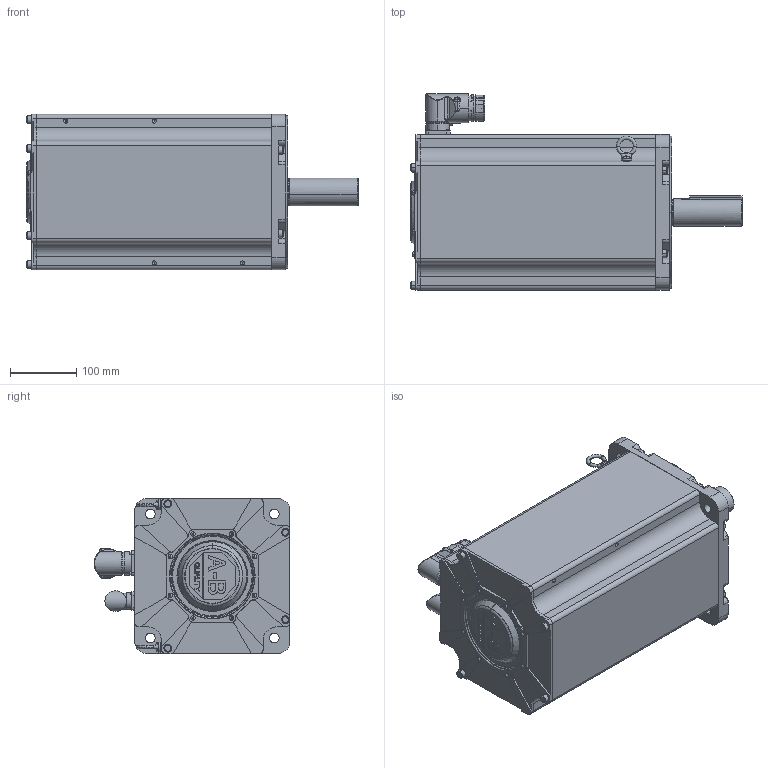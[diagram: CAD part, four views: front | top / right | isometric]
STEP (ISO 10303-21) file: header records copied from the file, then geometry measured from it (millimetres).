
FILE_DESCRIPTION (( 'STEP AP214' ), '1' );
FILE_NAME ('Rockwell Automation-MPL-x860x-xJ74AA.STEP', '2015-06-24T14:55:34', ( 'Windows User' ), ( '' ), 'SwSTEP 2.0', 'SolidWorks 2015', '' );
FILE_SCHEMA (( 'AUTOMOTIVE_DESIGN' ));
Length unit declared in the file: inch
Products named in the file (6): Rockwell Automation-MPL-x860x-xJ74AA_MPL-8xx-Shaft-Key_860-shaft-keyed-BRAKE; Rockwell Automation-MPL-x860x-xJ74AA_MPL-8xx-Body_860-BRAKE; Rockwell Automation-MPL-x860x-xJ74AA; Rockwell Automation-MPL-x860x-xJ74AA_MPL-8xx-Eyebolt; Rockwell Automation-MPL-x860x-xJ74AA_MPL-8xx-Encoder Connector; Rockwell Automation-MPL-x860x-xJ74AA_MPL-8xx-Power Connector-M40
Assembly tree (6 placements, depth 2):
  Rockwell Automation-MPL-x860x-xJ74AA
    Rockwell Automation-MPL-x860x-xJ74AA_MPL-8xx-Body_860-BRAKE
    Rockwell Automation-MPL-x860x-xJ74AA_MPL-8xx-Shaft-Key_860-shaft-keyed-BRAKE
    Rockwell Automation-MPL-x860x-xJ74AA_MPL-8xx-Power Connector-M40
    Rockwell Automation-MPL-x860x-xJ74AA_MPL-8xx-Encoder Connector
    Rockwell Automation-MPL-x860x-xJ74AA_MPL-8xx-Eyebolt  x2
Bounding box: 502.16 x 296.41 x 234.95 mm (x, y, z)
Volume: 9976047.4 mm3; surface area: 1075923.3 mm2
Topology: 9 solids, 9 shells, 1029 faces, 2531 edges, 1611 vertices
Faces by surface type: plane 431, cylinder 355, torus 108, cone 84, bspline 51
Entity records: 35697 total; most frequent: CARTESIAN_POINT 9401, DIRECTION 5227, ORIENTED_EDGE 4940, EDGE_CURVE 2470, AXIS2_PLACEMENT_3D 1946, VERTEX_POINT 1585, VECTOR 1335, LINE 1335
